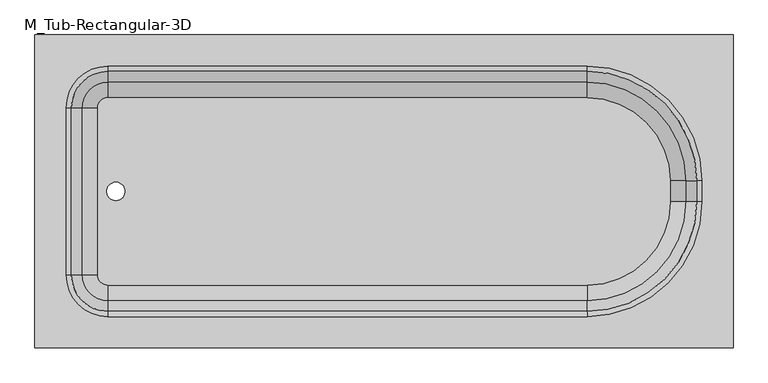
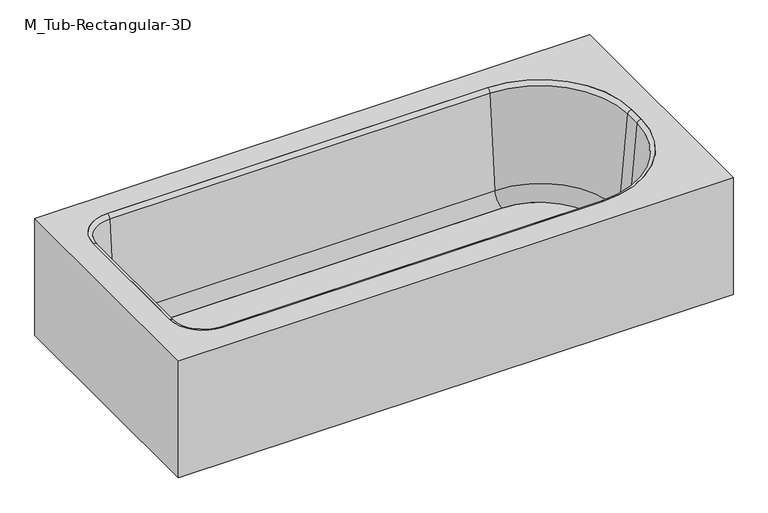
"""IFC4 building model written with IfcOpenShell, lengths in millimetres: flow terminal geometry, M_Tub-Rectangular-3D : M_Tub-Rectangular-3D 1.7 m."""

from ifc_helpers import new_model, si_unit, point, frame, frame_2d, origin, place, context, project, spatial, polyline, circle_curve, ellipse_curve, trimmed, segment, composite_curve, outline, extrude, source, transform, mapped, element, save
from ifc_brep_helpers import plane_surface, cylinder_surface, revolved_surface, advanced_brep


def m_tub_rectangular_3d_70f1a470(model_context):
    return source(origin(), model_context, "Body", "SolidModel", [
        advanced_brep(
        [(589.3970313, 862.0, 380.0), (-1110.6029687, 862.0, 380.0), (-1110.6029687, 100.0, 380.0), (589.3970313, 100.0, 380.0), (-932.8029687, 785.8, 380.0), (233.7970313, 785.8, 380.0), (513.1970313, 506.4, 380.0), (513.1970313, 455.6, 380.0), (233.7970313, 176.2, 380.0), (-932.8029687, 176.2, 380.0), (-1034.4029687, 277.8, 380.0), (-1034.4029687, 684.2, 380.0), (570.3470313, 842.95, 360.95), (570.3470313, 119.05, 360.95), (-1091.5529687, 119.05, 360.95), (-1091.5529687, 842.95, 360.95), (-932.8029687, 785.8, 360.95), (-1034.4029687, 684.2, 360.95), (-1034.4029687, 277.8, 360.95), (-932.8029687, 176.2, 360.95), (233.7970313, 176.2, 360.95), (513.1970313, 455.6, 360.95), (513.1970313, 506.4, 360.95), (233.7970313, 785.8, 360.95), (589.3970313, 862.0, 0.0), (-1110.6029687, 862.0, 0.0), (-1110.6029687, 100.0, 0.0), (589.3970313, 100.0, 0.0), (570.3470313, 842.95, 0.0), (-1091.5529687, 842.95, 0.0), (-1091.5529687, 119.05, 0.0), (570.3470313, 119.05, 0.0)],
        [
            (0, 1),
            (1, 2),
            (2, 3),
            (3, 0),
            (4, 5),
            (5, 6, circle_curve(frame((233.7970313, 506.4, 380.0), z_axis=(0.0, 0.0, -1.0), x_axis=(0.0, 1.0, 0.0)), 279.4)),
            (6, 7),
            (7, 8, circle_curve(frame((233.7970313, 455.6, 380.0), z_axis=(0.0, 0.0, -1.0), x_axis=(0.0, 1.0, 0.0)), 279.4)),
            (8, 9),
            (9, 10, circle_curve(frame((-932.8029687, 277.8, 380.0), z_axis=(0.0, 0.0, -1.0), x_axis=(0.0, 1.0, 0.0)), 101.6)),
            (10, 11),
            (11, 4, circle_curve(frame((-932.8029687, 684.2, 380.0), z_axis=(0.0, 0.0, -1.0), x_axis=(0.0, 1.0, 0.0)), 101.6)),
            (12, 13),
            (13, 14),
            (14, 15),
            (15, 12),
            (16, 17, circle_curve(frame((-932.8029687, 684.2, 360.95), z_axis=(0.0, 0.0, 1.0), x_axis=(0.0, 1.0, 0.0)), 101.6)),
            (17, 18),
            (18, 19, circle_curve(frame((-932.8029687, 277.8, 360.95), z_axis=(0.0, 0.0, 1.0), x_axis=(0.0, 1.0, 0.0)), 101.6)),
            (19, 20),
            (20, 21, circle_curve(frame((233.7970313, 455.6, 360.95), z_axis=(0.0, 0.0, 1.0), x_axis=(0.0, 1.0, 0.0)), 279.4)),
            (21, 22),
            (22, 23, circle_curve(frame((233.7970313, 506.4, 360.95), z_axis=(0.0, 0.0, 1.0), x_axis=(0.0, 1.0, 0.0)), 279.4)),
            (23, 16),
            (0, 24),
            (24, 25),
            (25, 1),
            (25, 26),
            (26, 2),
            (26, 27),
            (27, 3),
            (27, 24),
            (4, 16),
            (23, 5),
            (22, 6),
            (21, 7),
            (20, 8),
            (19, 9),
            (18, 10),
            (17, 11),
            (28, 29),
            (29, 30),
            (30, 31),
            (31, 28),
            (31, 13),
            (12, 28),
            (30, 14),
            (29, 15),
        ],
        [
            plane_surface(frame((-1110.6029687, 862.0, 380.0), z_axis=(0.0, 0.0, 1.0), x_axis=(-1.0, 0.0, 0.0))),
            plane_surface(frame((-1110.6029687, 862.0, 360.95), z_axis=(0.0, 0.0, -1.0), x_axis=(1.0, 0.0, 0.0))),
            plane_surface(frame((589.3970313, 862.0, 380.0), z_axis=(0.0, 1.0, 0.0), x_axis=(0.0, 0.0, -1.0))),
            plane_surface(frame((-1110.6029687, 862.0, 380.0), z_axis=(-1.0, 0.0, 0.0), x_axis=(0.0, 0.0, -1.0))),
            plane_surface(frame((-1110.6029687, 100.0, 380.0), z_axis=(0.0, -1.0, 0.0), x_axis=(0.0, 0.0, -1.0))),
            plane_surface(frame((589.3970313, 100.0, 380.0), z_axis=(1.0, 0.0, 0.0), x_axis=(0.0, 0.0, -1.0))),
            plane_surface(frame((-932.8029687, 785.8, 380.0), z_axis=(0.0, -1.0, 0.0), x_axis=(0.0, 0.0, -1.0))),
            revolved_surface(polyline([(233.7970313, 785.8, 360.95), (233.7970313, 785.8, 380.0)]), (233.7970313, 506.4, 380.0), (0.0, 0.0, -1.0)),
            plane_surface(frame((513.1970313, 506.4, 380.0), z_axis=(-1.0, 0.0, 0.0), x_axis=(0.0, 0.0, -1.0))),
            revolved_surface(polyline([(233.7970313, 735.0, 360.95), (233.7970313, 735.0, 380.0)]), (233.7970313, 455.6, 380.0), (0.0, 0.0, -1.0)),
            plane_surface(frame((233.7970313, 176.2, 380.0), z_axis=(0.0, 1.0, 0.0), x_axis=(0.0, 0.0, -1.0))),
            revolved_surface(polyline([(-932.8029687, 379.4, 360.95), (-932.8029687, 379.4, 380.0)]), (-932.8029687, 277.8, 380.0), (0.0, 0.0, -1.0)),
            plane_surface(frame((-1034.4029687, 277.8, 380.0), z_axis=(1.0, 0.0, 0.0), x_axis=(0.0, 0.0, -1.0))),
            revolved_surface(polyline([(-932.8029687, 785.8000000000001, 360.95), (-932.8029687, 785.8000000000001, 380.0)]), (-932.8029687, 684.2, 380.0), (0.0, 0.0, -1.0)),
            plane_surface(frame((-1110.6029687, 862.0, 0.0), z_axis=(0.0, 0.0, -1.0), x_axis=(1.0, 0.0, 0.0))),
            plane_surface(frame((570.3470313, 842.95, 360.95), z_axis=(-1.0, 0.0, 0.0), x_axis=(0.0, 0.0, -1.0))),
            plane_surface(frame((570.3470313, 119.05, 360.95), z_axis=(0.0, 1.0, 0.0), x_axis=(0.0, 0.0, -1.0))),
            plane_surface(frame((-1091.5529687, 119.05, 360.95), z_axis=(1.0, 0.0, 0.0), x_axis=(0.0, 0.0, -1.0))),
            plane_surface(frame((-1091.5529687, 842.95, 360.95), z_axis=(0.0, -1.0, 0.0), x_axis=(0.0, 0.0, -1.0))),
        ],
        [
            (0, [[1, 2, 3, 4], [5, 6, 7, 8, 9, 10, 11, 12]]),
            (1, [[13, 14, 15, 16], [17, 18, 19, 20, 21, 22, 23, 24]]),
            (2, [[-1, 25, 26, 27]]),
            (3, [[-2, -27, 28, 29]]),
            (4, [[-3, -29, 30, 31]]),
            (5, [[-25, -4, -31, 32]]),
            (6, [[-5, 33, -24, 34]]),
            (7, [[-6, -34, -23, 35]]),
            (8, [[-7, -35, -22, 36]]),
            (9, [[-8, -36, -21, 37]]),
            (10, [[-9, -37, -20, 38]]),
            (11, [[-10, -38, -19, 39]]),
            (12, [[-11, -39, -18, 40]]),
            (13, [[-12, -40, -17, -33]]),
            (14, [[-32, -30, -28, -26], [41, 42, 43, 44]]),
            (15, [[-44, 45, -13, 46]]),
            (16, [[-43, 47, -14, -45]]),
            (17, [[-42, 48, -15, -47]]),
            (18, [[-41, -46, -16, -48]]),
        ],
    ),
        extrude(outline(composite_curve([segment(trimmed(circle_curve(frame_2d((233.7970313, 506.4)), 202.7964741), [point((233.7970313, 709.1964741))], [point((436.5935054, 506.4))], False, "CARTESIAN"), True, "CONTINUOUS"), segment(polyline([(436.5935054, 506.4), (436.5935054, 455.6)]), True, "CONTINUOUS"), segment(trimmed(circle_curve(frame_2d((233.7970313, 455.6)), 202.7964741), [point((436.5935054, 455.6))], [point((233.7970313, 252.8035259))], False, "CARTESIAN"), True, "CONTINUOUS"), segment(polyline([(233.7970313, 252.8035259), (-932.8029687, 252.8035259)]), True, "CONTINUOUS"), segment(trimmed(circle_curve(frame_2d((-932.8029687, 277.8)), 24.9964741), [point((-932.8029687, 252.8035259))], [point((-957.7994428, 277.8))], False, "CARTESIAN"), True, "CONTINUOUS"), segment(polyline([(-957.7994428, 277.8), (-957.7994428, 684.2)]), True, "CONTINUOUS"), segment(trimmed(circle_curve(frame_2d((-932.8029687, 684.2)), 24.9964741), [point((-957.7994428, 684.2))], [point((-932.8029687, 709.1964741))], False, "CARTESIAN"), True, "CONTINUOUS"), segment(polyline([(-932.8029687, 709.1964741), (233.7970313, 709.1964741)]), True, "CONTINUOUS")], self_intersect=False), holes=[composite_curve([segment(trimmed(circle_curve(frame_2d((-913.5971625, 481.0)), 22.225), [point((-913.5971625, 503.225))], [point((-913.5971625, 458.775))], True, "CARTESIAN"), True, "CONTINUOUS"), segment(trimmed(circle_curve(frame_2d((-913.5971625, 481.0)), 22.225), [point((-913.5971625, 458.775))], [point((-913.5971625, 503.225))], True, "CARTESIAN"), True, "CONTINUOUS")], self_intersect=False)]), frame((0.0, 0.0, 15.863573), z_axis=(0.0, 0.0, 1.0), x_axis=(1.0, 0.0, 0.0)), (0.0, 0.0, 1.0), 19.05),
        advanced_brep(
        [(-995.7544608, 684.2, 69.6929392), (-932.8029687, 747.1514921, 69.6929392), (-932.8029687, 773.3220035, 368.8232535), (-1021.9249722, 684.2, 368.8232535), (-957.7994428, 684.2, 34.913573), (-932.8029687, 709.1964741, 34.913573), (-957.7994428, 684.2, 15.863573), (-932.8029687, 709.1964741, 15.863573), (-1034.4029687, 684.2, 15.863573), (-932.8029687, 785.8, 15.863573), (-1034.4029687, 684.2, 380.0), (-932.8029687, 785.8, 380.0), (-1021.9249722, 277.8, 368.8232535), (-995.7544608, 277.8, 69.6929392), (-957.7994428, 277.8, 34.913573), (-957.7994428, 277.8, 15.863573), (-1034.4029687, 277.8, 15.863573), (-1034.4029687, 277.8, 380.0), (-932.8029687, 214.8485079, 69.6929392), (-932.8029687, 188.6779965, 368.8232535), (-932.8029687, 252.8035259, 34.913573), (-932.8029687, 252.8035259, 15.863573), (-932.8029687, 176.2, 15.863573), (-932.8029687, 176.2, 380.0), (233.7970313, 188.6779965, 368.8232535), (233.7970313, 214.8485079, 69.6929392), (233.7970313, 252.8035259, 34.913573), (233.7970313, 252.8035259, 15.863573), (233.7970313, 176.2, 15.863573), (233.7970313, 176.2, 380.0), (474.5485234, 455.6, 69.6929392), (500.7190348, 455.6, 368.8232535), (436.5935054, 455.6, 34.913573), (436.5935054, 455.6, 15.863573), (513.1970313, 455.6, 15.863573), (513.1970313, 455.6, 380.0), (500.7190348, 506.4, 368.8232535), (474.5485234, 506.4, 69.6929392), (436.5935054, 506.4, 34.913573), (436.5935054, 506.4, 15.863573), (513.1970313, 506.4, 15.863573), (513.1970313, 506.4, 380.0), (233.7970313, 747.1514921, 69.6929392), (233.7970313, 773.3220035, 368.8232535), (233.7970313, 709.1964741, 34.913573), (233.7970313, 709.1964741, 15.863573), (233.7970313, 785.8, 15.863573), (233.7970313, 785.8, 380.0)],
        [
            (0, 1, circle_curve(frame((-932.8029687, 684.2, 69.6929392), z_axis=(0.0, 0.0, -1.0), x_axis=(0.0, 1.0, 0.0)), 62.9514921)),
            (1, 2),
            (2, 3, circle_curve(frame((-932.8029687, 684.2, 368.8232535), z_axis=(0.0, 0.0, 1.0), x_axis=(0.0, 1.0, 0.0)), 89.1220035)),
            (3, 0),
            (4, 5, circle_curve(frame((-932.8029687, 684.2, 34.913573), z_axis=(0.0, 0.0, -1.0), x_axis=(0.0, 1.0, 0.0)), 24.9964741)),
            (5, 1, circle_curve(frame((-932.8029687, 709.1964741, 73.013573), z_axis=(1.0, 0.0, 0.0), x_axis=(0.0, -1.0, 0.0)), 38.1)),
            (0, 4, circle_curve(frame((-957.7994428, 684.2, 73.013573), z_axis=(0.0, -1.0, 0.0), x_axis=(1.0, 0.0, 0.0)), 38.1)),
            (6, 7, circle_curve(frame((-932.8029687, 684.2, 15.863573), z_axis=(0.0, 0.0, -1.0), x_axis=(0.0, 1.0, 0.0)), 24.9964741)),
            (7, 5),
            (4, 6),
            (8, 9, circle_curve(frame((-932.8029687, 684.2, 15.863573), z_axis=(0.0, 0.0, -1.0), x_axis=(0.0, 1.0, 0.0)), 101.6)),
            (9, 7),
            (6, 8),
            (10, 11, circle_curve(frame((-932.8029687, 684.2, 380.0), z_axis=(0.0, 0.0, -1.0), x_axis=(0.0, 1.0, 0.0)), 101.6)),
            (11, 9),
            (8, 10),
            (2, 11, circle_curve(frame((-932.8029687, 785.8, 367.4462547), z_axis=(-1.0, 0.0, 0.0), x_axis=(0.0, -1.0, 0.0)), 12.5537453)),
            (10, 3, circle_curve(frame((-1034.4029687, 684.2, 367.4462547), z_axis=(0.0, 1.0, 0.0), x_axis=(1.0, 0.0, 0.0)), 12.5537453)),
            (3, 12),
            (12, 13),
            (13, 0),
            (13, 14, circle_curve(frame((-957.7994428, 277.8, 73.013573), z_axis=(0.0, -1.0, 0.0), x_axis=(1.0, 0.0, 0.0)), 38.1)),
            (14, 4),
            (14, 15),
            (15, 6),
            (15, 16),
            (16, 8),
            (16, 17),
            (17, 10),
            (17, 12, circle_curve(frame((-1034.4029687, 277.8, 367.4462547), z_axis=(0.0, 1.0, 0.0), x_axis=(1.0, 0.0, 0.0)), 12.5537453)),
            (18, 13, circle_curve(frame((-932.8029687, 277.8, 69.6929392), z_axis=(0.0, 0.0, -1.0), x_axis=(-1.0, 0.0, 0.0)), 62.9514921)),
            (12, 19, circle_curve(frame((-932.8029687, 277.8, 368.8232535), z_axis=(0.0, 0.0, 1.0), x_axis=(-1.0, 0.0, 0.0)), 89.1220035)),
            (19, 18),
            (20, 14, circle_curve(frame((-932.8029687, 277.8, 34.913573), z_axis=(0.0, 0.0, -1.0), x_axis=(-1.0, 0.0, 0.0)), 24.9964741)),
            (18, 20, circle_curve(frame((-932.8029687, 252.8035259, 73.013573), z_axis=(1.0, 0.0, 0.0), x_axis=(0.0, 1.0, 0.0)), 38.1)),
            (21, 15, circle_curve(frame((-932.8029687, 277.8, 15.863573), z_axis=(0.0, 0.0, -1.0), x_axis=(-1.0, 0.0, 0.0)), 24.9964741)),
            (20, 21),
            (22, 16, circle_curve(frame((-932.8029687, 277.8, 15.863573), z_axis=(0.0, 0.0, -1.0), x_axis=(-1.0, 0.0, 0.0)), 101.6)),
            (21, 22),
            (23, 17, circle_curve(frame((-932.8029687, 277.8, 380.0), z_axis=(0.0, 0.0, -1.0), x_axis=(-1.0, 0.0, 0.0)), 101.6)),
            (22, 23),
            (23, 19, circle_curve(frame((-932.8029687, 176.2, 367.4462547), z_axis=(-1.0, 0.0, 0.0), x_axis=(0.0, 1.0, 0.0)), 12.5537453)),
            (19, 24),
            (24, 25),
            (25, 18),
            (25, 26, circle_curve(frame((233.7970313, 252.8035259, 73.013573), z_axis=(1.0, 0.0, 0.0), x_axis=(0.0, 1.0, 0.0)), 38.1)),
            (26, 20),
            (26, 27),
            (27, 21),
            (27, 28),
            (28, 22),
            (28, 29),
            (29, 23),
            (29, 24, circle_curve(frame((233.7970313, 176.2, 367.4462547), z_axis=(-1.0, 0.0, 0.0), x_axis=(0.0, 1.0, 0.0)), 12.5537453)),
            (30, 25, circle_curve(frame((233.7970313, 455.6, 69.6929392), z_axis=(0.0, 0.0, -1.0), x_axis=(0.0, -1.0, 0.0)), 240.7514921)),
            (24, 31, circle_curve(frame((233.7970313, 455.6, 368.8232535), z_axis=(0.0, 0.0, 1.0), x_axis=(0.0, -1.0, 0.0)), 266.9220035)),
            (31, 30),
            (32, 26, circle_curve(frame((233.7970313, 455.6, 34.913573), z_axis=(0.0, 0.0, -1.0), x_axis=(0.0, -1.0, 0.0)), 202.7964741)),
            (30, 32, circle_curve(frame((436.5935054, 455.6, 73.013573), z_axis=(0.0, 1.0, 0.0), x_axis=(-1.0, 0.0, 0.0)), 38.1)),
            (33, 27, circle_curve(frame((233.7970313, 455.6, 15.863573), z_axis=(0.0, 0.0, -1.0), x_axis=(0.0, -1.0, 0.0)), 202.7964741)),
            (32, 33),
            (34, 28, circle_curve(frame((233.7970313, 455.6, 15.863573), z_axis=(0.0, 0.0, -1.0), x_axis=(0.0, -1.0, 0.0)), 279.4)),
            (33, 34),
            (35, 29, circle_curve(frame((233.7970313, 455.6, 380.0), z_axis=(0.0, 0.0, -1.0), x_axis=(0.0, -1.0, 0.0)), 279.4)),
            (34, 35),
            (35, 31, circle_curve(frame((513.1970313, 455.6, 367.4462547), z_axis=(0.0, -1.0, 0.0), x_axis=(-1.0, 0.0, 0.0)), 12.5537453)),
            (31, 36),
            (36, 37),
            (37, 30),
            (37, 38, circle_curve(frame((436.5935054, 506.4, 73.013573), z_axis=(0.0, 1.0, 0.0), x_axis=(-1.0, 0.0, 0.0)), 38.1)),
            (38, 32),
            (38, 39),
            (39, 33),
            (39, 40),
            (40, 34),
            (40, 41),
            (41, 35),
            (41, 36, circle_curve(frame((513.1970313, 506.4, 367.4462547), z_axis=(0.0, -1.0, 0.0), x_axis=(-1.0, 0.0, 0.0)), 12.5537453)),
            (42, 37, circle_curve(frame((233.7970313, 506.4, 69.6929392), z_axis=(0.0, 0.0, -1.0), x_axis=(1.0, 0.0, 0.0)), 240.7514921)),
            (36, 43, circle_curve(frame((233.7970313, 506.4, 368.8232535), z_axis=(0.0, 0.0, 1.0), x_axis=(1.0, 0.0, 0.0)), 266.9220035)),
            (43, 42),
            (44, 38, circle_curve(frame((233.7970313, 506.4, 34.913573), z_axis=(0.0, 0.0, -1.0), x_axis=(1.0, 0.0, 0.0)), 202.7964741)),
            (42, 44, circle_curve(frame((233.7970313, 709.1964741, 73.013573), z_axis=(-1.0, 0.0, 0.0), x_axis=(0.0, -1.0, 0.0)), 38.1)),
            (45, 39, circle_curve(frame((233.7970313, 506.4, 15.863573), z_axis=(0.0, 0.0, -1.0), x_axis=(1.0, 0.0, 0.0)), 202.7964741)),
            (44, 45),
            (46, 40, circle_curve(frame((233.7970313, 506.4, 15.863573), z_axis=(0.0, 0.0, -1.0), x_axis=(1.0, 0.0, 0.0)), 279.4)),
            (45, 46),
            (47, 41, circle_curve(frame((233.7970313, 506.4, 380.0), z_axis=(0.0, 0.0, -1.0), x_axis=(1.0, 0.0, 0.0)), 279.4)),
            (46, 47),
            (47, 43, circle_curve(frame((233.7970313, 785.8, 367.4462547), z_axis=(1.0, 0.0, 0.0), x_axis=(0.0, -1.0, 0.0)), 12.5537453)),
            (43, 2),
            (1, 42),
            (5, 44),
            (7, 45),
            (9, 46),
            (11, 47),
        ],
        [
            revolved_surface(polyline([(-932.8029687, 773.3220035, 368.8232535), (-932.8029687, 747.1514921, 69.6929392)]), (-932.8029687, 684.2, 380.0), (0.0, 0.0, 1.0)),
            revolved_surface(trimmed(ellipse_curve(frame((-932.8029687, 709.1964741, 73.013573), z_axis=(-1.0, 0.0, 0.0), x_axis=(0.0, -1.0, 0.0)), 38.1, 38.1), [point((-932.8029687, 747.1514921, 69.6929392))], [point((-932.8029687, 709.1964741, 34.913573))], True, "CARTESIAN"), (-932.8029687, 684.2, 380.0), (0.0, 0.0, 1.0)),
            revolved_surface(polyline([(-932.8029687, 709.1964741, 34.913572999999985), (-932.8029687, 709.1964741, 15.863572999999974)]), (-932.8029687, 684.2, 380.0), (0.0, 0.0, 1.0)),
            plane_surface(frame((-932.8029687, 684.2, 15.863573), z_axis=(0.0, 0.0, -1.0), x_axis=(0.0, 1.0, 0.0))),
            cylinder_surface(frame((-932.8029687, 684.2, 380.0), z_axis=(0.0, 0.0, 1.0), x_axis=(0.0, 1.0, 0.0)), 101.6),
            revolved_surface(trimmed(ellipse_curve(frame((-932.8029687, 785.8, 367.4462547), z_axis=(1.0, 0.0, 0.0), x_axis=(0.0, -1.0, 0.0)), 12.5537453, 12.5537453), [point((-932.8029687, 785.8, 380.0))], [point((-932.8029687, 773.3220035, 368.8232535))], True, "CARTESIAN"), (-932.8029687, 684.2, 380.0), (0.0, 0.0, 1.0)),
            plane_surface(frame((-1021.9249722, 684.2, 368.8232535), z_axis=(0.9961946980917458, 0.0, 0.08715574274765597), x_axis=(0.0, -1.0, 0.0))),
            revolved_surface(polyline([(-919.6994427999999, 277.8, 73.013573), (-919.6994427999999, 684.2, 73.013573)]), (-957.7994428, 684.2, 73.013573), (0.0, -1.0, 0.0)),
            plane_surface(frame((-957.7994428, 684.2, 34.913573), z_axis=(1.0, 0.0, 0.0), x_axis=(0.0, -1.0, 0.0))),
            plane_surface(frame((-957.7994428, 684.2, 15.863573), z_axis=(0.0, 0.0, -1.0), x_axis=(0.0, -1.0, 0.0))),
            plane_surface(frame((-1034.4029687, 684.2, 15.863573), z_axis=(-1.0, 0.0, 0.0), x_axis=(0.0, -1.0, 0.0))),
            cylinder_surface(frame((-1034.4029687, 684.2, 367.4462547), z_axis=(0.0, 1.0, 0.0), x_axis=(1.0, 0.0, 0.0)), 12.5537453),
            revolved_surface(polyline([(-1021.9249722, 277.8, 368.8232535), (-995.7544608, 277.8, 69.6929392)]), (-932.8029687, 277.8, 380.0), (0.0, 0.0, 1.0)),
            revolved_surface(trimmed(ellipse_curve(frame((-957.7994428, 277.8, 73.013573), z_axis=(0.0, -1.0, 0.0), x_axis=(1.0, 0.0, 0.0)), 38.1, 38.1), [point((-995.7544608, 277.8, 69.6929392))], [point((-957.7994428, 277.8, 34.913573))], True, "CARTESIAN"), (-932.8029687, 277.8, 380.0), (0.0, 0.0, 1.0)),
            revolved_surface(polyline([(-957.7994428, 277.8, 34.913572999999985), (-957.7994428, 277.8, 15.863572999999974)]), (-932.8029687, 277.8, 380.0), (0.0, 0.0, 1.0)),
            plane_surface(frame((-932.8029687, 277.8, 15.863573), z_axis=(0.0, 0.0, -1.0), x_axis=(-1.0, 0.0, 0.0))),
            cylinder_surface(frame((-932.8029687, 277.8, 380.0), z_axis=(0.0, 0.0, 1.0), x_axis=(-1.0, 0.0, 0.0)), 101.6),
            revolved_surface(trimmed(ellipse_curve(frame((-1034.4029687, 277.8, 367.4462547), z_axis=(0.0, 1.0, 0.0), x_axis=(1.0, 0.0, 0.0)), 12.5537453, 12.5537453), [point((-1034.4029687, 277.8, 380.0))], [point((-1021.9249722, 277.8, 368.8232535))], True, "CARTESIAN"), (-932.8029687, 277.8, 380.0), (0.0, 0.0, 1.0)),
            plane_surface(frame((-932.8029687, 188.6779965, 368.8232535), z_axis=(0.0, 0.9961946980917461, 0.08715574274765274), x_axis=(1.0, 0.0, 0.0))),
            revolved_surface(polyline([(233.79703129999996, 290.90352590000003, 73.013573), (-932.8029687, 290.90352590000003, 73.013573)]), (-932.8029687, 252.8035259, 73.013573), (1.0, 0.0, 0.0)),
            plane_surface(frame((-932.8029687, 252.8035259, 34.913573), z_axis=(0.0, 1.0, 0.0), x_axis=(1.0, 0.0, 0.0))),
            plane_surface(frame((-932.8029687, 252.8035259, 15.863573), z_axis=(0.0, 0.0, -1.0), x_axis=(1.0, 0.0, 0.0))),
            plane_surface(frame((-932.8029687, 176.2, 15.863573), z_axis=(0.0, -1.0, 0.0), x_axis=(1.0, 0.0, 0.0))),
            cylinder_surface(frame((-932.8029687, 176.2, 367.4462547), z_axis=(-1.0, 0.0, 0.0), x_axis=(0.0, 1.0, 0.0)), 12.5537453),
            revolved_surface(polyline([(233.7970313, 188.6779965, 368.8232535), (233.7970313, 214.8485079, 69.6929392)]), (233.7970313, 455.6, 380.0), (0.0, 0.0, 1.0)),
            revolved_surface(trimmed(ellipse_curve(frame((233.7970313, 252.8035259, 73.013573), z_axis=(1.0, 0.0, 0.0), x_axis=(0.0, 1.0, 0.0)), 38.1, 38.1), [point((233.7970313, 214.8485079, 69.6929392))], [point((233.7970313, 252.8035259, 34.913573))], True, "CARTESIAN"), (233.7970313, 455.6, 380.0), (0.0, 0.0, 1.0)),
            revolved_surface(polyline([(233.7970313, 252.8035259, 34.913572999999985), (233.7970313, 252.8035259, 15.863572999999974)]), (233.7970313, 455.6, 380.0), (0.0, 0.0, 1.0)),
            plane_surface(frame((233.7970313, 455.6, 15.863573), z_axis=(0.0, 0.0, -1.0), x_axis=(0.0, -1.0, 0.0))),
            cylinder_surface(frame((233.7970313, 455.6, 380.0), z_axis=(0.0, 0.0, 1.0), x_axis=(0.0, -1.0, 0.0)), 279.4),
            revolved_surface(trimmed(ellipse_curve(frame((233.7970313, 176.2, 367.4462547), z_axis=(-1.0, 0.0, 0.0), x_axis=(0.0, 1.0, 0.0)), 12.5537453, 12.5537453), [point((233.7970313, 176.2, 380.0))], [point((233.7970313, 188.6779965, 368.8232535))], True, "CARTESIAN"), (233.7970313, 455.6, 380.0), (0.0, 0.0, 1.0)),
            plane_surface(frame((500.7190348, 455.6, 368.8232535), z_axis=(-0.9961946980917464, 0.0, 0.0871557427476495), x_axis=(0.0, 1.0, 0.0))),
            revolved_surface(polyline([(398.4935054, 506.4, 73.013573), (398.4935054, 455.6, 73.013573)]), (436.5935054, 455.6, 73.013573), (0.0, 1.0, 0.0)),
            plane_surface(frame((436.5935054, 455.6, 34.913573), z_axis=(-1.0, 0.0, 0.0), x_axis=(0.0, 1.0, 0.0))),
            plane_surface(frame((436.5935054, 455.6, 15.863573), z_axis=(0.0, 0.0, -1.0), x_axis=(0.0, 1.0, 0.0))),
            plane_surface(frame((513.1970313, 455.6, 15.863573), z_axis=(1.0, 0.0, 0.0), x_axis=(0.0, 1.0, 0.0))),
            cylinder_surface(frame((513.1970313, 455.6, 367.4462547), z_axis=(0.0, -1.0, 0.0), x_axis=(-1.0, 0.0, 0.0)), 12.5537453),
            revolved_surface(polyline([(500.7190348, 506.4, 368.8232535), (474.5485234, 506.4, 69.6929392)]), (233.7970313, 506.4, 380.0), (0.0, 0.0, 1.0)),
            revolved_surface(trimmed(ellipse_curve(frame((436.5935054, 506.4, 73.013573), z_axis=(0.0, 1.0, 0.0), x_axis=(-1.0, 0.0, 0.0)), 38.1, 38.1), [point((474.5485234, 506.4, 69.6929392))], [point((436.5935054, 506.4, 34.913573))], True, "CARTESIAN"), (233.7970313, 506.4, 380.0), (0.0, 0.0, 1.0)),
            revolved_surface(polyline([(436.5935054, 506.4, 34.913572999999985), (436.5935054, 506.4, 15.863572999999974)]), (233.7970313, 506.4, 380.0), (0.0, 0.0, 1.0)),
            plane_surface(frame((233.7970313, 506.4, 15.863573), z_axis=(0.0, 0.0, -1.0), x_axis=(1.0, 0.0, 0.0))),
            cylinder_surface(frame((233.7970313, 506.4, 380.0), z_axis=(0.0, 0.0, 1.0), x_axis=(1.0, 0.0, 0.0)), 279.4),
            revolved_surface(trimmed(ellipse_curve(frame((513.1970313, 506.4, 367.4462547), z_axis=(0.0, -1.0, 0.0), x_axis=(-1.0, 0.0, 0.0)), 12.5537453, 12.5537453), [point((513.1970313, 506.4, 380.0))], [point((500.7190348, 506.4, 368.8232535))], True, "CARTESIAN"), (233.7970313, 506.4, 380.0), (0.0, 0.0, 1.0)),
            plane_surface(frame((233.7970313, 773.3220035, 368.8232535), z_axis=(0.0, -0.9961946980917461, 0.08715574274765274), x_axis=(-1.0, 0.0, 0.0))),
            revolved_surface(polyline([(-932.8029687, 671.0964741, 73.013573), (233.7970313, 671.0964741, 73.013573)]), (233.7970313, 709.1964741, 73.013573), (-1.0, 0.0, 0.0)),
            plane_surface(frame((233.7970313, 709.1964741, 34.913573), z_axis=(0.0, -1.0, 0.0), x_axis=(-1.0, 0.0, 0.0))),
            plane_surface(frame((233.7970313, 709.1964741, 15.863573), z_axis=(0.0, 0.0, -1.0), x_axis=(-1.0, 0.0, 0.0))),
            plane_surface(frame((233.7970313, 785.8, 15.863573), z_axis=(0.0, 1.0, 0.0), x_axis=(-1.0, 0.0, 0.0))),
            cylinder_surface(frame((233.7970313, 785.8, 367.4462547), z_axis=(1.0, 0.0, 0.0), x_axis=(0.0, -1.0, 0.0)), 12.5537453),
        ],
        [
            (0, [[1, 2, 3, 4]]),
            (1, [[5, 6, -1, 7]]),
            (2, [[8, 9, -5, 10]]),
            (3, [[11, 12, -8, 13]]),
            (4, [[14, 15, -11, 16]]),
            (5, [[-3, 17, -14, 18]]),
            (6, [[-4, 19, 20, 21]]),
            (7, [[-7, -21, 22, 23]]),
            (8, [[-10, -23, 24, 25]]),
            (9, [[-13, -25, 26, 27]]),
            (10, [[-16, -27, 28, 29]]),
            (11, [[-18, -29, 30, -19]]),
            (12, [[31, -20, 32, 33]]),
            (13, [[34, -22, -31, 35]]),
            (14, [[36, -24, -34, 37]]),
            (15, [[38, -26, -36, 39]]),
            (16, [[40, -28, -38, 41]]),
            (17, [[-32, -30, -40, 42]]),
            (18, [[-33, 43, 44, 45]]),
            (19, [[-35, -45, 46, 47]]),
            (20, [[-37, -47, 48, 49]]),
            (21, [[-39, -49, 50, 51]]),
            (22, [[-41, -51, 52, 53]]),
            (23, [[-42, -53, 54, -43]]),
            (24, [[55, -44, 56, 57]]),
            (25, [[58, -46, -55, 59]]),
            (26, [[60, -48, -58, 61]]),
            (27, [[62, -50, -60, 63]]),
            (28, [[64, -52, -62, 65]]),
            (29, [[-56, -54, -64, 66]]),
            (30, [[-57, 67, 68, 69]]),
            (31, [[-59, -69, 70, 71]]),
            (32, [[-61, -71, 72, 73]]),
            (33, [[-63, -73, 74, 75]]),
            (34, [[-65, -75, 76, 77]]),
            (35, [[-66, -77, 78, -67]]),
            (36, [[79, -68, 80, 81]]),
            (37, [[82, -70, -79, 83]]),
            (38, [[84, -72, -82, 85]]),
            (39, [[86, -74, -84, 87]]),
            (40, [[88, -76, -86, 89]]),
            (41, [[-80, -78, -88, 90]]),
            (42, [[-81, 91, -2, 92]]),
            (43, [[-83, -92, -6, 93]]),
            (44, [[-85, -93, -9, 94]]),
            (45, [[-87, -94, -12, 95]]),
            (46, [[-89, -95, -15, 96]]),
            (47, [[-90, -96, -17, -91]]),
        ],
    ),
    ])


if __name__ == "__main__":
    model = new_model("IFC4")
    model_context = context("Model", 3, world=origin())
    ifc_project = project(units=[si_unit("LENGTHUNIT", "METRE", prefix="MILLI")], contexts=[model_context])
    site = spatial("IfcSite", under=ifc_project)
    building = spatial("IfcBuilding", under=site)
    placement = place(None, origin())
    m_tub_rectangular_3d_shape = m_tub_rectangular_3d_70f1a470(model_context)
    element("IfcFlowTerminal", 1, ObjectType="M_Tub-Rectangular-3D : M_Tub-Rectangular-3D 1.7 m", at=placement, inside=building, context=model_context, shape_type="MappedRepresentation", body=[
        mapped(m_tub_rectangular_3d_shape, transform((0.0, 0.0, 0.0), x_axis=(1.0, 0.0, 0.0), y_axis=(0.0, 1.0, 0.0), z_axis=(0.0, 0.0, 1.0))),
    ])
    save(model, "model.ifc")
